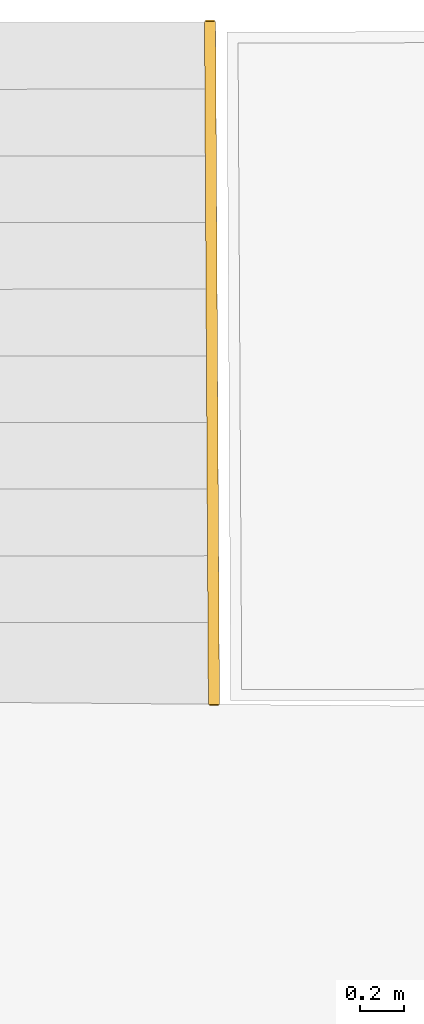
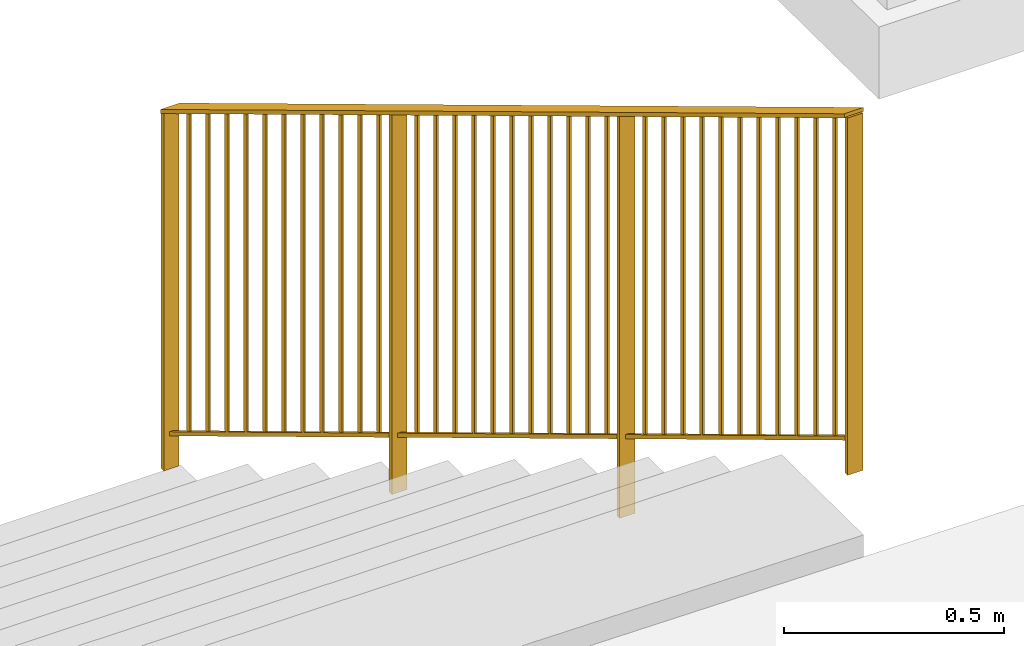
# One storey, part 100 of 101: 1 railing, 1 element without a shape of its own.
"""IFC2X3 building model written with IfcOpenShell, lengths in metres."""

from ifc_helpers import new_model, entity, si_unit, converted_unit, derived_unit, direction, frame, frame_2d, origin, place, context, subcontext, project, spatial, polyline, rectangle, outline, extrude, material, material_list, type_object, element, aggregate, save


model = new_model("IFC2X3")

# Units and contexts
model_context = context("Model", 3, precision=1e-05, world=origin(), true_north=direction((6.123233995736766e-17, 1.0)))
body_context = subcontext(model_context, "Body", "Model", "MODEL_VIEW")
ifc_project = project(units=[si_unit("LENGTHUNIT", "METRE"), si_unit("AREAUNIT", "SQUARE_METRE"), converted_unit("PLANEANGLEUNIT", "DEGREE", entity("IfcPlaneAngleMeasure", 0.017453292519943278), si_unit("PLANEANGLEUNIT", "RADIAN"), dimensions=[0, 0, 0, 0, 0, 0, 0]), derived_unit("THERMALTRANSMITTANCEUNIT", [(si_unit("MASSUNIT", "GRAM", prefix="KILO"), 1), (si_unit("THERMODYNAMICTEMPERATUREUNIT", "KELVIN"), -1), (si_unit("TIMEUNIT", "SECOND"), -3)])], contexts=[model_context])

# Site, building, storey
site_placement = place(None, frame((1253.6752467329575, 2072.143113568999, 91.49999999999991), z_axis=(0.0, 0.0, 1.0), x_axis=(0.7237211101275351, 0.6900925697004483, 0.0)))
site = spatial("IfcSite", under=ifc_project, at=site_placement, Name="Surface", CompositionType="ELEMENT")
building_placement = place(site_placement, origin())
building = spatial("IfcBuilding", under=site, at=building_placement, CompositionType="ELEMENT")
storey_placement = place(building_placement, origin())
storey = spatial("IfcBuildingStorey", under=building, at=storey_placement, Name="0- Rdc", CompositionType="ELEMENT", Elevation=-5.764692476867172e-13)

# Stair, railing
type_product = type_object("IfcTypeProduct", Name="Escalier coulé sur place:Monobloc")
stair_placement = place(storey_placement, origin())
stair = element("IfcStair", 1, at=stair_placement, inside=storey, type_object=type_product, Name="Escalier coulé sur place:Escalier", ObjectType="Escalier coulé sur place:Monobloc", ShapeType="STRAIGHT_RUN_STAIR")
ifc_material_1 = material(Name="<Unnamed>")
ifc_material_2 = material(Name="Peinture - Grise")
ifc_material_3 = material(Name="OMD_RAL1032")
ifc_material_list = material_list([ifc_material_1, ifc_material_2, ifc_material_3])
railing_type = type_object("IfcRailingType", Name="Garde-corps:OMD_Garde Corps Régulier 1m", PredefinedType="NOTDEFINED")
railing_placement = place(stair_placement, frame((232.35827549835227, -24.184113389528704, -2.5404411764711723)))
railing = element("IfcRailing", 2, at=railing_placement, type_object=railing_type, material=ifc_material_list, Name="Garde-corps:OMD_Garde Corps Régulier 1m", ObjectType="Garde-corps:OMD_Garde Corps Régulier 1m", PredefinedType="NOTDEFINED", context=body_context, shape_type="SweptSolid", body=[
    extrude(rectangle(XDim=0.004999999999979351, YDim=0.014999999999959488, at=frame_2d((1.4092459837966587e-14, 1.030902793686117e-14), x_axis=(1.0, 0.0))), frame((0.0772355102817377, 0.08021228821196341, 1.894321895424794), z_axis=(0.0, 0.0, 1.0), x_axis=(0.7276506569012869, -0.685947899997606, 0.0)), (0.0, 0.0, 1.0), 0.8899999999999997),
    extrude(rectangle(XDim=0.004999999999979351, YDim=0.014999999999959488, at=frame_2d((1.4092459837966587e-14, 1.030902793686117e-14), x_axis=(1.0, 0.0))), frame((0.13580232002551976, 0.14233971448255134, 1.8430555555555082), z_axis=(0.0, 0.0, 1.0), x_axis=(0.7276506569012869, -0.685947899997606, 0.0)), (0.0, 0.0, 1.0), 0.8899999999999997),
    extrude(rectangle(XDim=0.00499999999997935, YDim=0.01499999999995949, at=frame_2d((-1.112131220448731e-14, -1.3461020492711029e-14), x_axis=(1.0, 0.0))), frame((0.19436912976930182, 0.2044671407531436, 1.7917892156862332), z_axis=(0.0, 0.0, 1.0), x_axis=(0.7276506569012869, -0.685947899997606, 0.0)), (0.0, 0.0, 1.0), 0.8899999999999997),
    extrude(rectangle(XDim=0.00499999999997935, YDim=0.014999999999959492, at=frame_2d((3.930709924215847e-14, 3.407734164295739e-14), x_axis=(1.0, 0.0))), frame((0.2529359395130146, 0.26659456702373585, 1.7405228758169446), z_axis=(0.0, 0.0, 1.0), x_axis=(0.7276506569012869, -0.685947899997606, 0.0)), (0.0, 0.0, 1.0), 0.8899999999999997),
    extrude(rectangle(XDim=0.004999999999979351, YDim=0.014999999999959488, at=frame_2d((1.4092459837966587e-14, 1.030902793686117e-14), x_axis=(1.0, 0.0))), frame((0.3115027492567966, 0.3287219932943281, 1.6892565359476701), z_axis=(0.0, 0.0, 1.0), x_axis=(0.7276506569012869, -0.685947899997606, 0.0)), (0.0, 0.0, 1.0), 0.8899999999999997),
    extrude(rectangle(XDim=0.004999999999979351, YDim=0.014999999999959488, at=frame_2d((1.4092459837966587e-14, 1.030902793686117e-14), x_axis=(1.0, 0.0))), frame((0.370069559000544, 0.39084941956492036, 1.6379901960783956), z_axis=(0.0, 0.0, 1.0), x_axis=(0.7276506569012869, -0.685947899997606, 0.0)), (0.0, 0.0, 1.0), 0.8899999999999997),
    extrude(rectangle(XDim=0.004999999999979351, YDim=0.014999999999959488, at=frame_2d((1.4092459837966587e-14, 1.030902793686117e-14), x_axis=(1.0, 0.0))), frame((0.4286363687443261, 0.4529768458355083, 1.5867238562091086), z_axis=(0.0, 0.0, 1.0), x_axis=(0.7276506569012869, -0.685947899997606, 0.0)), (0.0, 0.0, 1.0), 0.8899999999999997),
    extrude(rectangle(XDim=0.00499999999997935, YDim=0.01499999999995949, at=frame_2d((-1.112131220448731e-14, -1.3461020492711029e-14), x_axis=(1.0, 0.0))), frame((0.4872031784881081, 0.5151042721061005, 1.535457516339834), z_axis=(0.0, 0.0, 1.0), x_axis=(0.7276506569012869, -0.685947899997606, 0.0)), (0.0, 0.0, 1.0), 0.8899999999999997),
    extrude(rectangle(XDim=0.004999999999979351, YDim=0.014999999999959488, at=frame_2d((1.4092459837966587e-14, 1.030902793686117e-14), x_axis=(1.0, 0.0))), frame((0.5457699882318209, 0.5772316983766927, 1.4841911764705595), z_axis=(0.0, 0.0, 1.0), x_axis=(0.7276506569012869, -0.685947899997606, 0.0)), (0.0, 0.0, 1.0), 0.8899999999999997),
    extrude(rectangle(XDim=0.004999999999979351, YDim=0.014999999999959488, at=frame_2d((1.4092459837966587e-14, 1.030902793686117e-14), x_axis=(1.0, 0.0))), frame((0.6043367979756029, 0.6393591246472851, 1.432924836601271), z_axis=(0.0, 0.0, 1.0), x_axis=(0.7276506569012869, -0.685947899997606, 0.0)), (0.0, 0.0, 1.0), 0.8899999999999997),
    extrude(rectangle(XDim=0.004999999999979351, YDim=0.014999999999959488, at=frame_2d((1.4092459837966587e-14, 1.030902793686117e-14), x_axis=(1.0, 0.0))), frame((0.6629036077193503, 0.7014865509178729, 1.381658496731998), z_axis=(0.0, 0.0, 1.0), x_axis=(0.7276506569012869, -0.685947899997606, 0.0)), (0.0, 0.0, 1.0), 0.8899999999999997),
    extrude(rectangle(XDim=0.039999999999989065, YDim=0.011999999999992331, at=frame_2d((1.1119577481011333e-14, 1.3461454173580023e-14), x_axis=(1.0, 0.0))), frame((0.7214704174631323, 0.7636139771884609, 1.1073529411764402), z_axis=(0.0, 0.0, 1.0), x_axis=(0.7276506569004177, -0.6859478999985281, 0.0)), (0.0, 0.0, 1.0), 1.1130392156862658),
    extrude(rectangle(XDim=0.00499999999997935, YDim=0.01499999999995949, at=frame_2d((-1.112131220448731e-14, -1.3461020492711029e-14), x_axis=(1.0, 0.0))), frame((0.7800372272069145, 0.8257414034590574, 1.279125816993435), z_axis=(0.0, 0.0, 1.0), x_axis=(0.7276506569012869, -0.685947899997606, 0.0)), (0.0, 0.0, 1.0), 0.8899999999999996),
    extrude(rectangle(XDim=0.004999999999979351, YDim=0.014999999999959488, at=frame_2d((1.4092459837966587e-14, 1.030902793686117e-14), x_axis=(1.0, 0.0))), frame((0.8386040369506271, 0.8878688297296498, 1.2278594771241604), z_axis=(0.0, 0.0, 1.0), x_axis=(0.7276506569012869, -0.685947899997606, 0.0)), (0.0, 0.0, 1.0), 0.8899999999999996),
    extrude(rectangle(XDim=0.004999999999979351, YDim=0.014999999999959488, at=frame_2d((1.4092459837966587e-14, 1.030902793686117e-14), x_axis=(1.0, 0.0))), frame((0.8971708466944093, 0.949996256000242, 1.1765931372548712), z_axis=(0.0, 0.0, 1.0), x_axis=(0.7276506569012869, -0.685947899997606, 0.0)), (0.0, 0.0, 1.0), 0.8899999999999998),
    extrude(rectangle(XDim=0.004999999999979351, YDim=0.014999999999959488, at=frame_2d((1.4092459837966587e-14, 1.030902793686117e-14), x_axis=(1.0, 0.0))), frame((0.9557376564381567, 1.01212368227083, 1.125326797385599), z_axis=(0.0, 0.0, 1.0), x_axis=(0.7276506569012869, -0.685947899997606, 0.0)), (0.0, 0.0, 1.0), 0.8899999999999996),
    extrude(rectangle(XDim=0.004999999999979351, YDim=0.014999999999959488, at=frame_2d((1.4092459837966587e-14, 1.030902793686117e-14), x_axis=(1.0, 0.0))), frame((1.0143044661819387, 1.0742511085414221, 1.0740604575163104), z_axis=(0.0, 0.0, 1.0), x_axis=(0.7276506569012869, -0.685947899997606, 0.0)), (0.0, 0.0, 1.0), 0.8899999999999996),
    extrude(rectangle(XDim=0.00499999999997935, YDim=0.01499999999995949, at=frame_2d((-1.112131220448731e-14, -1.3461020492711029e-14), x_axis=(1.0, 0.0))), frame((1.0728712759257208, 1.1363785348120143, 1.0227941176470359), z_axis=(0.0, 0.0, 1.0), x_axis=(0.7276506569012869, -0.685947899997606, 0.0)), (0.0, 0.0, 1.0), 0.8899999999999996),
    extrude(rectangle(XDim=0.004999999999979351, YDim=0.014999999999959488, at=frame_2d((1.4092459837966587e-14, 1.030902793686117e-14), x_axis=(1.0, 0.0))), frame((1.1314380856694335, 1.1985059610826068, 0.9715277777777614), z_axis=(0.0, 0.0, 1.0), x_axis=(0.7276506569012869, -0.685947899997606, 0.0)), (0.0, 0.0, 1.0), 0.8899999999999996),
    extrude(rectangle(XDim=0.004999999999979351, YDim=0.014999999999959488, at=frame_2d((1.4092459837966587e-14, 1.030902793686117e-14), x_axis=(1.0, 0.0))), frame((1.1900048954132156, 1.260633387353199, 0.9202614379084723), z_axis=(0.0, 0.0, 1.0), x_axis=(0.7276506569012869, -0.685947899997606, 0.0)), (0.0, 0.0, 1.0), 0.8899999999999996),
    extrude(rectangle(XDim=0.004999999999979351, YDim=0.014999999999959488, at=frame_2d((1.4092459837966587e-14, 1.030902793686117e-14), x_axis=(1.0, 0.0))), frame((1.248571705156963, 1.322760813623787, 0.8689950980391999), z_axis=(0.0, 0.0, 1.0), x_axis=(0.7276506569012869, -0.685947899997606, 0.0)), (0.0, 0.0, 1.0), 0.8899999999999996),
    extrude(rectangle(XDim=0.004999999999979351, YDim=0.014999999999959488, at=frame_2d((1.4092459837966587e-14, 1.030902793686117e-14), x_axis=(1.0, 0.0))), frame((1.307138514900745, 1.3848882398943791, 0.8177287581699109), z_axis=(0.0, 0.0, 1.0), x_axis=(0.7276506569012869, -0.685947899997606, 0.0)), (0.0, 0.0, 1.0), 0.8899999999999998),
    extrude(rectangle(XDim=0.00499999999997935, YDim=0.01499999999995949, at=frame_2d((-1.112131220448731e-14, -1.3461020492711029e-14), x_axis=(1.0, 0.0))), frame((1.365705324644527, 1.4470156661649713, 0.7664624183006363), z_axis=(0.0, 0.0, 1.0), x_axis=(0.7276506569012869, -0.685947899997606, 0.0)), (0.0, 0.0, 1.0), 0.8899999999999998),
    extrude(rectangle(XDim=0.03999999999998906, YDim=0.01199999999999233, at=frame_2d((1.4092893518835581e-14, 1.030902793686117e-14), x_axis=(1.0, 0.0))), frame((1.4242721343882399, 1.5091430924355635, 0.5536764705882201), z_axis=(0.0, 0.0, 1.0), x_axis=(0.7276506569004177, -0.6859478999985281, 0.0)), (0.0, 0.0, 1.0), 1.05151960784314),
    extrude(rectangle(XDim=0.004999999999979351, YDim=0.014999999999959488, at=frame_2d((1.4092459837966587e-14, 1.030902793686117e-14), x_axis=(1.0, 0.0))), frame((1.4828389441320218, 1.5712705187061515, 0.6639297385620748), z_axis=(0.0, 0.0, 1.0), x_axis=(0.7276506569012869, -0.685947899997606, 0.0)), (0.0, 0.0, 1.0), 0.8899999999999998),
    extrude(rectangle(XDim=0.004999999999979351, YDim=0.014999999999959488, at=frame_2d((1.4092459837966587e-14, 1.030902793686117e-14), x_axis=(1.0, 0.0))), frame((1.5414057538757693, 1.6333979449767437, 0.6126633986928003), z_axis=(0.0, 0.0, 1.0), x_axis=(0.7276506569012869, -0.685947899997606, 0.0)), (0.0, 0.0, 1.0), 0.8899999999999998),
    extrude(rectangle(XDim=0.004999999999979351, YDim=0.014999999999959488, at=frame_2d((1.4092459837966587e-14, 1.030902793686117e-14), x_axis=(1.0, 0.0))), frame((1.5999725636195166, 1.6955253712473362, 0.5613970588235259), z_axis=(0.0, 0.0, 1.0), x_axis=(0.7276506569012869, -0.685947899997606, 0.0)), (0.0, 0.0, 1.0), 0.8899999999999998),
    extrude(rectangle(XDim=0.00499999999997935, YDim=0.01499999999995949, at=frame_2d((-1.112131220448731e-14, -1.3461020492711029e-14), x_axis=(1.0, 0.0))), frame((1.6585393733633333, 1.7576527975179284, 0.5101307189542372), z_axis=(0.0, 0.0, 1.0), x_axis=(0.7276506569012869, -0.685947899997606, 0.0)), (0.0, 0.0, 1.0), 0.8899999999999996),
    extrude(rectangle(XDim=0.004999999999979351, YDim=0.014999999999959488, at=frame_2d((1.4092459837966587e-14, 1.030902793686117e-14), x_axis=(1.0, 0.0))), frame((1.7171061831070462, 1.8197802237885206, 0.4588643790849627), z_axis=(0.0, 0.0, 1.0), x_axis=(0.7276506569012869, -0.685947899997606, 0.0)), (0.0, 0.0, 1.0), 0.8899999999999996),
    extrude(rectangle(XDim=0.004999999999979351, YDim=0.014999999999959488, at=frame_2d((1.4092459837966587e-14, 1.030902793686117e-14), x_axis=(1.0, 0.0))), frame((1.7756729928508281, 1.8819076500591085, 0.4075980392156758), z_axis=(0.0, 0.0, 1.0), x_axis=(0.7276506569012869, -0.685947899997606, 0.0)), (0.0, 0.0, 1.0), 0.8899999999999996),
    extrude(rectangle(XDim=0.004999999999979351, YDim=0.014999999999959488, at=frame_2d((1.4092459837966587e-14, 1.030902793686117e-14), x_axis=(1.0, 0.0))), frame((1.8342398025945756, 1.9440350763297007, 0.35633169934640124), z_axis=(0.0, 0.0, 1.0), x_axis=(0.7276506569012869, -0.685947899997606, 0.0)), (0.0, 0.0, 1.0), 0.8899999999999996),
    extrude(rectangle(XDim=0.004999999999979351, YDim=0.014999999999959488, at=frame_2d((1.4092459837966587e-14, 1.030902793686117e-14), x_axis=(1.0, 0.0))), frame((1.892806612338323, 2.006162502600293, 0.30506535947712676), z_axis=(0.0, 0.0, 1.0), x_axis=(0.7276506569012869, -0.685947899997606, 0.0)), (0.0, 0.0, 1.0), 0.8899999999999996),
    extrude(rectangle(XDim=0.00499999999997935, YDim=0.01499999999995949, at=frame_2d((-1.112131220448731e-14, -1.3461020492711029e-14), x_axis=(1.0, 0.0))), frame((1.9513734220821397, 2.068289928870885, 0.2537990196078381), z_axis=(0.0, 0.0, 1.0), x_axis=(0.7276506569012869, -0.685947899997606, 0.0)), (0.0, 0.0, 1.0), 0.8899999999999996),
    extrude(rectangle(XDim=0.004999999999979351, YDim=0.014999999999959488, at=frame_2d((1.4092459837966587e-14, 1.030902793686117e-14), x_axis=(1.0, 0.0))), frame((2.0099402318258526, 2.130417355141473, 0.20253267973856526), z_axis=(0.0, 0.0, 1.0), x_axis=(0.7276506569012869, -0.685947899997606, 0.0)), (0.0, 0.0, 1.0), 0.8899999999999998),
    extrude(rectangle(XDim=0.004999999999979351, YDim=0.014999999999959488, at=frame_2d((1.4092459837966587e-14, 1.030902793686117e-14), x_axis=(1.0, 0.0))), frame((2.0685070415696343, 2.1925447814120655, 0.15126633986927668), z_axis=(0.0, 0.0, 1.0), x_axis=(0.7276506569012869, -0.685947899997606, 0.0)), (0.0, 0.0, 1.0), 0.8899999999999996),
    extrude(rectangle(XDim=0.039999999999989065, YDim=0.011999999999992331, at=frame_2d((1.1119577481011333e-14, 1.3461454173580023e-14), x_axis=(1.0, 0.0))), frame((0.018668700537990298, 0.01808486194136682, 1.8455882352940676), z_axis=(0.0, 0.0, 1.0), x_axis=(0.7276506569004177, -0.6859478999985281, 0.0)), (0.0, 0.0, 1.0), 0.9900000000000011),
    extrude(rectangle(XDim=0.039999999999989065, YDim=0.011999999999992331, at=frame_2d((1.1119577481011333e-14, 1.3461454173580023e-14), x_axis=(1.0, 0.0))), frame((2.127073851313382, 2.2546722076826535, 0.0), z_axis=(0.0, 0.0, 1.0), x_axis=(0.7276506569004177, -0.6859478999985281, 0.0)), (0.0, 0.0, 1.0), 0.9900000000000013),
    extrude(outline(polyline([(-1.7896139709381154, -0.0050000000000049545), (1.7956184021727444, -0.005000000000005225), (1.789613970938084, 0.004999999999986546), (-1.7956184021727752, 0.004999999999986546), (-1.7896139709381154, -0.0050000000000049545)])), frame((1.0546800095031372, 1.1535272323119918, 1.9169620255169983), z_axis=(0.7276506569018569, -0.6859478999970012, 0.0), x_axis=(-0.5880804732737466, -0.6238333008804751, 0.5147750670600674)), (0.0, 0.0, 1.0), 0.04999999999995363),
    extrude(outline(polyline([(-1.789613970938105, -0.004999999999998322), (1.7956184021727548, -0.004999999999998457), (1.7896139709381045, 0.004999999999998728), (-1.7956184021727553, 0.004999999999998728), (-1.789613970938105, -0.004999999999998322)])), frame((1.0692330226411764, 1.13980827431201, 1.0169620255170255), z_axis=(0.727650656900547, -0.6859478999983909, 0.0), x_axis=(-0.5880804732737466, -0.6238333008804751, 0.5147750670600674)), (0.0, 0.0, 1.0), 0.010000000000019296),
])
aggregate(stair, [railing])

save(model, "model.ifc")
